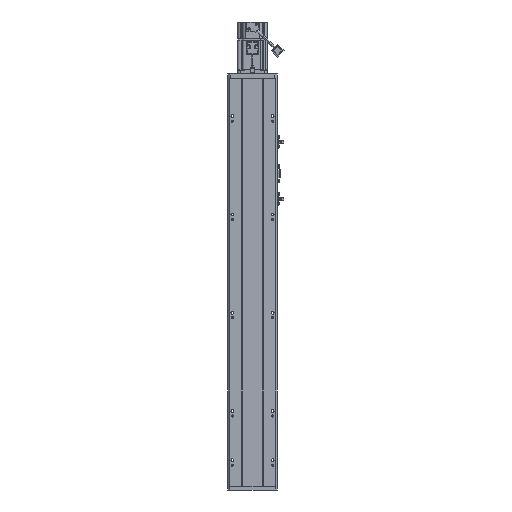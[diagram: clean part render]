
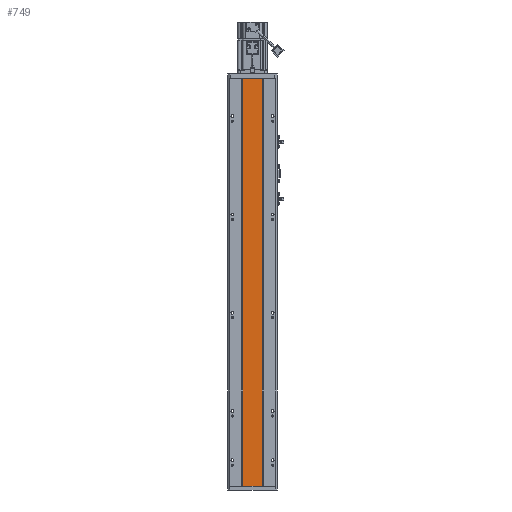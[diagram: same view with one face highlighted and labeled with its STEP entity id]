
A CAD part, front view. The second image highlights one B-rep face of the part: STEP entity #749.
In plain terms, the highlighted planar face has unit normal (0, -1, 0).
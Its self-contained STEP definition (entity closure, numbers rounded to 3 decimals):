
#749 = ADVANCED_FACE ( 'NONE', ( #90655 ), #21106, .F. ) ;
#1756 = CARTESIAN_POINT ( 'NONE',  ( -20., 0., -828.5 ) ) ;
#3937 = VECTOR ( 'NONE', #84108, 1000. ) ;
#4034 = LINE ( 'NONE', #7429, #3937 ) ;
#4811 = AXIS2_PLACEMENT_3D ( 'NONE', #19489, #19693, #19679 ) ;
#7429 = CARTESIAN_POINT ( 'NONE',  ( 20., 0., -828.5 ) ) ;
#14941 = VECTOR ( 'NONE', #70231, 1000. ) ;
#15519 = LINE ( 'NONE', #55158, #14941 ) ;
#18698 = CARTESIAN_POINT ( 'NONE',  ( -20., 0., 0. ) ) ;
#19489 = CARTESIAN_POINT ( 'NONE',  ( 20., 0., -828.5 ) ) ;
#19679 = DIRECTION ( 'NONE',  ( -1., 0., 0. ) ) ;
#19693 = DIRECTION ( 'NONE',  ( 0., 1., 0. ) ) ;
#21106 = PLANE ( 'NONE',  #4811 ) ;
#22941 = EDGE_LOOP ( 'NONE', ( #67387, #70045, #70331, #73711 ) ) ;
#28681 = VECTOR ( 'NONE', #80390, 1000. ) ;
#28758 = LINE ( 'NONE', #57763, #28681 ) ;
#30581 = EDGE_CURVE ( 'NONE', #41097, #39071, #15519, .T. ) ;
#32304 = VECTOR ( 'NONE', #55280, 1000. ) ;
#34915 = VERTEX_POINT ( 'NONE', #63173 ) ;
#38715 = EDGE_CURVE ( 'NONE', #61246, #39071, #28758, .T. ) ;
#39071 = VERTEX_POINT ( 'NONE', #18698 ) ;
#41097 = VERTEX_POINT ( 'NONE', #1756 ) ;
#46534 = EDGE_CURVE ( 'NONE', #34915, #41097, #4034, .T. ) ;
#52448 = LINE ( 'NONE', #84974, #32304 ) ;
#55158 = CARTESIAN_POINT ( 'NONE',  ( -20., 0., -828.5 ) ) ;
#55280 = DIRECTION ( 'NONE',  ( 0., 0., 1. ) ) ;
#57763 = CARTESIAN_POINT ( 'NONE',  ( 20., 0., 0. ) ) ;
#61246 = VERTEX_POINT ( 'NONE', #95809 ) ;
#63173 = CARTESIAN_POINT ( 'NONE',  ( 20., 0., -828.5 ) ) ;
#67387 = ORIENTED_EDGE ( 'NONE', *, *, #38715, .T. ) ;
#70045 = ORIENTED_EDGE ( 'NONE', *, *, #30581, .F. ) ;
#70231 = DIRECTION ( 'NONE',  ( 0., 0., 1. ) ) ;
#70331 = ORIENTED_EDGE ( 'NONE', *, *, #46534, .F. ) ;
#73177 = EDGE_CURVE ( 'NONE', #34915, #61246, #52448, .T. ) ;
#73711 = ORIENTED_EDGE ( 'NONE', *, *, #73177, .T. ) ;
#80390 = DIRECTION ( 'NONE',  ( -1., 0., 0. ) ) ;
#84108 = DIRECTION ( 'NONE',  ( -1., 0., 0. ) ) ;
#84974 = CARTESIAN_POINT ( 'NONE',  ( 20., 0., -828.5 ) ) ;
#90655 = FACE_OUTER_BOUND ( 'NONE', #22941, .T. ) ;
#95809 = CARTESIAN_POINT ( 'NONE',  ( 20., 0., 0. ) ) ;
